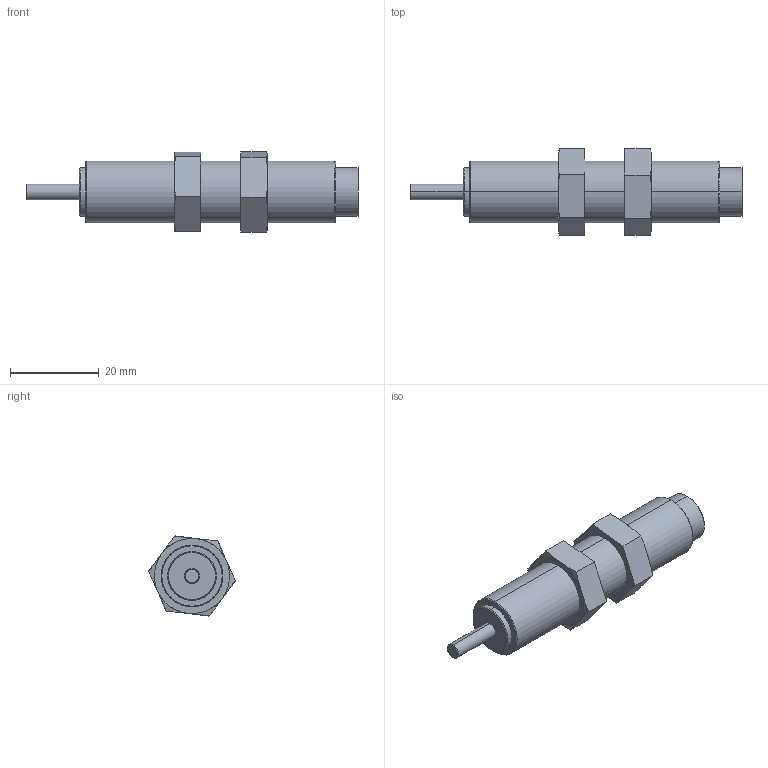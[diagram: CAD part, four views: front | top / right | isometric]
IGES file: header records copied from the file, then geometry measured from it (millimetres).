
Start section: SolidWorks IGES file using analytic representation for surfaces
Global section: file name: C:\Users\Sam Lin\Desktop\48\FSA-1412AC.IGS; native system: SolidWorks 2013; preprocessor: SolidWorks 2013; author: Sam Lin; date: 160317.153200; units: metre
Bounding box: 75 x 19.52 x 18.08 mm (x, y, z)
Surface area: 4813.4 mm2 (no closed solid volume)
Topology: 0 solids, 0 shells, 53 faces, 788 edges, 788 vertices
Faces by surface type: bspline 33, revolution 20
